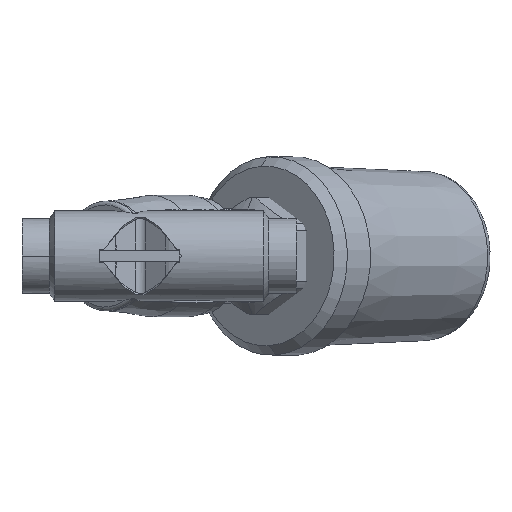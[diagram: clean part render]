
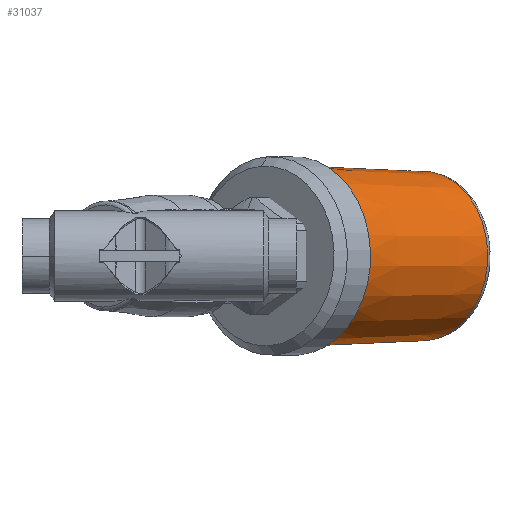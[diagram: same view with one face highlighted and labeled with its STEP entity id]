
A CAD part, front view. The second image highlights one B-rep face of the part: STEP entity #31037.
In plain terms, the highlighted conical face has half-angle 1.678 degrees and reference radius 23.053 mm.
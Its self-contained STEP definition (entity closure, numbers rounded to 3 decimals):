
#405 = VERTEX_POINT ( 'NONE', #19910 ) ;
#527 = EDGE_CURVE ( 'NONE', #31612, #25520, #13044, .T. ) ;
#702 = ORIENTED_EDGE ( 'NONE', *, *, #27275, .T. ) ;
#2113 = DIRECTION ( 'NONE',  ( 0., -1., 0. ) ) ;
#2787 = DIRECTION ( 'NONE',  ( 0., 1., 0. ) ) ;
#2939 = CIRCLE ( 'NONE', #9690, 23.053 ) ;
#3139 = ORIENTED_EDGE ( 'NONE', *, *, #7120, .F. ) ;
#3908 = CARTESIAN_POINT ( 'NONE',  ( 0., 14.3, -23.053 ) ) ;
#5677 = DIRECTION ( 'NONE',  ( 0., 0., -1. ) ) ;
#5922 = DIRECTION ( 'NONE',  ( 0., -1., 0.029 ) ) ;
#6564 = CARTESIAN_POINT ( 'NONE',  ( 0., 14.3, 0. ) ) ;
#7120 = EDGE_CURVE ( 'NONE', #29690, #7742, #19150, .T. ) ;
#7742 = VERTEX_POINT ( 'NONE', #11955 ) ;
#9690 = AXIS2_PLACEMENT_3D ( 'NONE', #31442, #29271, #19229 ) ;
#10510 = ORIENTED_EDGE ( 'NONE', *, *, #27230, .T. ) ;
#11757 = VECTOR ( 'NONE', #16554, 1000. ) ;
#11937 = DIRECTION ( 'NONE',  ( 0., 0., -1. ) ) ;
#11955 = CARTESIAN_POINT ( 'NONE',  ( 0., 14.3, -23.053 ) ) ;
#12968 = AXIS2_PLACEMENT_3D ( 'NONE', #31869, #2113, #11937 ) ;
#13044 = LINE ( 'NONE', #30797, #28573 ) ;
#15310 = EDGE_LOOP ( 'NONE', ( #702, #31121, #26635, #10510, #3139 ) ) ;
#15756 = EDGE_CURVE ( 'NONE', #25520, #405, #31717, .T. ) ;
#16230 = AXIS2_PLACEMENT_3D ( 'NONE', #30324, #2787, #5677 ) ;
#16554 = DIRECTION ( 'NONE',  ( 0., -1., -0.029 ) ) ;
#17699 = AXIS2_PLACEMENT_3D ( 'NONE', #6564, #23875, #31449 ) ;
#19150 = LINE ( 'NONE', #3908, #11757 ) ;
#19229 = DIRECTION ( 'NONE',  ( 0., 0., -1. ) ) ;
#19910 = CARTESIAN_POINT ( 'NONE',  ( 23.053, 14.3, 0. ) ) ;
#20359 = CIRCLE ( 'NONE', #12968, 21.638 ) ;
#23059 = CARTESIAN_POINT ( 'NONE',  ( 0., 14.3, 23.053 ) ) ;
#23875 = DIRECTION ( 'NONE',  ( 0., -1., 0. ) ) ;
#24977 = FACE_OUTER_BOUND ( 'NONE', #15310, .T. ) ;
#25520 = VERTEX_POINT ( 'NONE', #23059 ) ;
#25659 = CARTESIAN_POINT ( 'NONE',  ( 0., 62.588, 21.638 ) ) ;
#26635 = ORIENTED_EDGE ( 'NONE', *, *, #15756, .T. ) ;
#27230 = EDGE_CURVE ( 'NONE', #405, #7742, #2939, .T. ) ;
#27275 = EDGE_CURVE ( 'NONE', #29690, #31612, #20359, .T. ) ;
#28573 = VECTOR ( 'NONE', #5922, 1000. ) ;
#29271 = DIRECTION ( 'NONE',  ( 0., 1., 0. ) ) ;
#29690 = VERTEX_POINT ( 'NONE', #31951 ) ;
#30324 = CARTESIAN_POINT ( 'NONE',  ( 0., 14.3, 0. ) ) ;
#30747 = CONICAL_SURFACE ( 'NONE', #17699, 23.053, 0.029 ) ;
#30797 = CARTESIAN_POINT ( 'NONE',  ( 0., 14.3, 23.053 ) ) ;
#31037 = ADVANCED_FACE ( 'NONE', ( #24977 ), #30747, .T. ) ;
#31121 = ORIENTED_EDGE ( 'NONE', *, *, #527, .T. ) ;
#31442 = CARTESIAN_POINT ( 'NONE',  ( 0., 14.3, 0. ) ) ;
#31449 = DIRECTION ( 'NONE',  ( 0., 0., -1. ) ) ;
#31612 = VERTEX_POINT ( 'NONE', #25659 ) ;
#31717 = CIRCLE ( 'NONE', #16230, 23.053 ) ;
#31869 = CARTESIAN_POINT ( 'NONE',  ( 0., 62.588, 0. ) ) ;
#31951 = CARTESIAN_POINT ( 'NONE',  ( 0., 62.588, -21.638 ) ) ;
